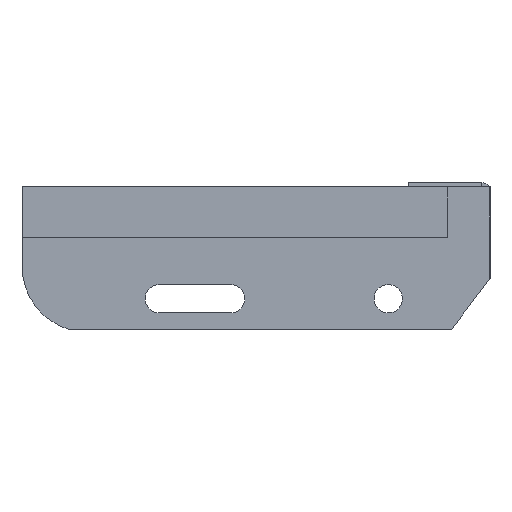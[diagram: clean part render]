
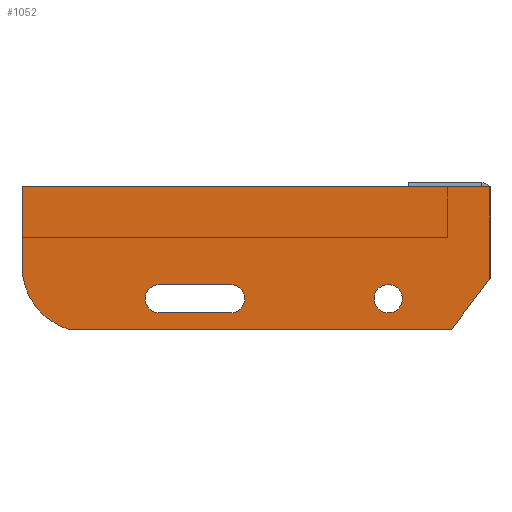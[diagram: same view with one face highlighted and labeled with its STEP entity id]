
A CAD part, left-side view. The second image highlights one B-rep face of the part: STEP entity #1052.
In plain terms, the highlighted planar face has unit normal (-1, 0, 0) as drawn and (0, 0, 1) by its records, which use the part's own axes.
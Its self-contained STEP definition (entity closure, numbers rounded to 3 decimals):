
#3 = CARTESIAN_POINT ( 'NONE',  ( -197.5, -39., 3. ) ) ;
#13 = VECTOR ( 'NONE', #1181, 1000. ) ;
#69 = ORIENTED_EDGE ( 'NONE', *, *, #941, .F. ) ;
#98 = CARTESIAN_POINT ( 'NONE',  ( -57., -55., 3. ) ) ;
#105 = CARTESIAN_POINT ( 'NONE',  ( -230., 0., 3. ) ) ;
#117 = DIRECTION ( 'NONE',  ( 0., 0., 1. ) ) ;
#166 = EDGE_CURVE ( 'NONE', #1852, #1625, #225, .T. ) ;
#168 = VERTEX_POINT ( 'NONE', #1463 ) ;
#178 = CARTESIAN_POINT ( 'NONE',  ( -162.5, -55., 3. ) ) ;
#212 = CARTESIAN_POINT ( 'NONE',  ( -197.5, -39., 3. ) ) ;
#225 = LINE ( 'NONE', #1173, #340 ) ;
#239 = AXIS2_PLACEMENT_3D ( 'NONE', #212, #1917, #523 ) ;
#244 = ORIENTED_EDGE ( 'NONE', *, *, #1505, .T. ) ;
#245 = FACE_OUTER_BOUND ( 'NONE', #291, .T. ) ;
#247 = CARTESIAN_POINT ( 'NONE',  ( -162.5, -62., 3. ) ) ;
#291 = EDGE_LOOP ( 'NONE', ( #244, #736, #1103, #591, #886, #630 ) ) ;
#298 = DIRECTION ( 'NONE',  ( 0., 0., 1. ) ) ;
#303 = CARTESIAN_POINT ( 'NONE',  ( -162.5, -48., 3. ) ) ;
#310 = CARTESIAN_POINT ( 'NONE',  ( -127.5, -62., 3. ) ) ;
#318 = CARTESIAN_POINT ( 'NONE',  ( -127.5, -48., 3. ) ) ;
#324 = EDGE_CURVE ( 'NONE', #431, #1074, #1209, .T. ) ;
#340 = VECTOR ( 'NONE', #1753, 1000. ) ;
#389 = VERTEX_POINT ( 'NONE', #2003 ) ;
#425 = EDGE_CURVE ( 'NONE', #1646, #527, #890, .T. ) ;
#428 = ORIENTED_EDGE ( 'NONE', *, *, #425, .F. ) ;
#431 = VERTEX_POINT ( 'NONE', #247 ) ;
#455 = VERTEX_POINT ( 'NONE', #98 ) ;
#471 = DIRECTION ( 'NONE',  ( 1., 0., 0. ) ) ;
#498 = DIRECTION ( 'NONE',  ( 1., 0., 0. ) ) ;
#523 = DIRECTION ( 'NONE',  ( 1., 0., 0. ) ) ;
#527 = VERTEX_POINT ( 'NONE', #303 ) ;
#551 = LINE ( 'NONE', #1007, #1613 ) ;
#558 = CARTESIAN_POINT ( 'NONE',  ( -162.5, -48., 3. ) ) ;
#577 = LINE ( 'NONE', #105, #1845 ) ;
#579 = DIRECTION ( 'NONE',  ( 1., 0., 0. ) ) ;
#585 = DIRECTION ( 'NONE',  ( 0., -1., 0. ) ) ;
#590 = CARTESIAN_POINT ( 'NONE',  ( 0., 0., 3. ) ) ;
#591 = ORIENTED_EDGE ( 'NONE', *, *, #778, .T. ) ;
#605 = DIRECTION ( 'NONE',  ( 1., 0., 0. ) ) ;
#630 = ORIENTED_EDGE ( 'NONE', *, *, #166, .T. ) ;
#641 = EDGE_CURVE ( 'NONE', #389, #1852, #962, .T. ) ;
#679 = DIRECTION ( 'NONE',  ( 1., 0., 0. ) ) ;
#705 = ORIENTED_EDGE ( 'NONE', *, *, #324, .F. ) ;
#715 = FACE_BOUND ( 'NONE', #834, .T. ) ;
#736 = ORIENTED_EDGE ( 'NONE', *, *, #1769, .T. ) ;
#760 = AXIS2_PLACEMENT_3D ( 'NONE', #853, #117, #1033 ) ;
#761 = CARTESIAN_POINT ( 'NONE',  ( -162.5, -55., 3. ) ) ;
#778 = EDGE_CURVE ( 'NONE', #1220, #389, #1940, .T. ) ;
#782 = ORIENTED_EDGE ( 'NONE', *, *, #1850, .F. ) ;
#787 = VECTOR ( 'NONE', #579, 1000. ) ;
#834 = EDGE_LOOP ( 'NONE', ( #1229, #69 ) ) ;
#853 = CARTESIAN_POINT ( 'NONE',  ( -50., -55., 3. ) ) ;
#864 = EDGE_CURVE ( 'NONE', #1394, #1220, #577, .T. ) ;
#886 = ORIENTED_EDGE ( 'NONE', *, *, #641, .T. ) ;
#887 = FACE_BOUND ( 'NONE', #1306, .T. ) ;
#890 = LINE ( 'NONE', #558, #13 ) ;
#904 = EDGE_CURVE ( 'NONE', #455, #1691, #1281, .T. ) ;
#941 = EDGE_CURVE ( 'NONE', #1691, #455, #2007, .T. ) ;
#962 = LINE ( 'NONE', #1586, #1475 ) ;
#1007 = CARTESIAN_POINT ( 'NONE',  ( 0., 0., 3. ) ) ;
#1025 = AXIS2_PLACEMENT_3D ( 'NONE', #1560, #298, #1714 ) ;
#1033 = DIRECTION ( 'NONE',  ( 1., 0., 0. ) ) ;
#1052 = ADVANCED_FACE ( 'NONE', ( #245, #715, #887 ), #1515, .T. ) ;
#1074 = VERTEX_POINT ( 'NONE', #310 ) ;
#1079 = CARTESIAN_POINT ( 'NONE',  ( -230., -39., 3. ) ) ;
#1086 = CARTESIAN_POINT ( 'NONE',  ( -169.5, -55., 3. ) ) ;
#1087 = AXIS2_PLACEMENT_3D ( 'NONE', #761, #1590, #679 ) ;
#1103 = ORIENTED_EDGE ( 'NONE', *, *, #864, .T. ) ;
#1173 = CARTESIAN_POINT ( 'NONE',  ( 0., -45., 3. ) ) ;
#1181 = DIRECTION ( 'NONE',  ( -1., 0., 0. ) ) ;
#1209 = LINE ( 'NONE', #1353, #787 ) ;
#1211 = DIRECTION ( 'NONE',  ( -1., 0., 0. ) ) ;
#1220 = VERTEX_POINT ( 'NONE', #1079 ) ;
#1229 = ORIENTED_EDGE ( 'NONE', *, *, #904, .F. ) ;
#1281 = CIRCLE ( 'NONE', #760, 7. ) ;
#1282 = CIRCLE ( 'NONE', #1025, 7. ) ;
#1306 = EDGE_LOOP ( 'NONE', ( #705, #1441, #782, #428, #1338 ) ) ;
#1338 = ORIENTED_EDGE ( 'NONE', *, *, #1745, .F. ) ;
#1353 = CARTESIAN_POINT ( 'NONE',  ( -162.5, -62., 3. ) ) ;
#1394 = VERTEX_POINT ( 'NONE', #1593 ) ;
#1406 = DIRECTION ( 'NONE',  ( 0., 0., 1. ) ) ;
#1412 = AXIS2_PLACEMENT_3D ( 'NONE', #1647, #1969, #1818 ) ;
#1416 = LINE ( 'NONE', #590, #1912 ) ;
#1441 = ORIENTED_EDGE ( 'NONE', *, *, #1784, .F. ) ;
#1457 = DIRECTION ( 'NONE',  ( 0., 0., 1. ) ) ;
#1463 = CARTESIAN_POINT ( 'NONE',  ( 0., 0., 3. ) ) ;
#1475 = VECTOR ( 'NONE', #605, 1000. ) ;
#1480 = CIRCLE ( 'NONE', #1087, 7. ) ;
#1505 = EDGE_CURVE ( 'NONE', #1625, #168, #551, .T. ) ;
#1515 = PLANE ( 'NONE',  #1909 ) ;
#1560 = CARTESIAN_POINT ( 'NONE',  ( -127.5, -55., 3. ) ) ;
#1586 = CARTESIAN_POINT ( 'NONE',  ( -18.839, -70., 3. ) ) ;
#1590 = DIRECTION ( 'NONE',  ( 0., 0., 1. ) ) ;
#1593 = CARTESIAN_POINT ( 'NONE',  ( -230., 0., 3. ) ) ;
#1613 = VECTOR ( 'NONE', #1804, 1000. ) ;
#1625 = VERTEX_POINT ( 'NONE', #2017 ) ;
#1646 = VERTEX_POINT ( 'NONE', #318 ) ;
#1647 = CARTESIAN_POINT ( 'NONE',  ( -50., -55., 3. ) ) ;
#1680 = AXIS2_PLACEMENT_3D ( 'NONE', #178, #1457, #498 ) ;
#1691 = VERTEX_POINT ( 'NONE', #2022 ) ;
#1714 = DIRECTION ( 'NONE',  ( 1., 0., 0. ) ) ;
#1738 = VERTEX_POINT ( 'NONE', #1086 ) ;
#1745 = EDGE_CURVE ( 'NONE', #1074, #1646, #1282, .T. ) ;
#1753 = DIRECTION ( 'NONE',  ( 0.602, 0.799, 0. ) ) ;
#1769 = EDGE_CURVE ( 'NONE', #168, #1394, #1416, .T. ) ;
#1778 = CARTESIAN_POINT ( 'NONE',  ( -18.839, -70., 3. ) ) ;
#1784 = EDGE_CURVE ( 'NONE', #1738, #431, #1480, .T. ) ;
#1804 = DIRECTION ( 'NONE',  ( 0., 1., 0. ) ) ;
#1816 = CIRCLE ( 'NONE', #1680, 7. ) ;
#1818 = DIRECTION ( 'NONE',  ( 1., 0., 0. ) ) ;
#1845 = VECTOR ( 'NONE', #585, 1000. ) ;
#1850 = EDGE_CURVE ( 'NONE', #527, #1738, #1816, .T. ) ;
#1852 = VERTEX_POINT ( 'NONE', #1778 ) ;
#1909 = AXIS2_PLACEMENT_3D ( 'NONE', #3, #1406, #471 ) ;
#1912 = VECTOR ( 'NONE', #1211, 1000. ) ;
#1917 = DIRECTION ( 'NONE',  ( 0., 0., 1. ) ) ;
#1940 = CIRCLE ( 'NONE', #239, 32.5 ) ;
#1969 = DIRECTION ( 'NONE',  ( 0., 0., 1. ) ) ;
#2003 = CARTESIAN_POINT ( 'NONE',  ( -207.26, -70., 3. ) ) ;
#2007 = CIRCLE ( 'NONE', #1412, 7. ) ;
#2017 = CARTESIAN_POINT ( 'NONE',  ( 0., -45., 3. ) ) ;
#2022 = CARTESIAN_POINT ( 'NONE',  ( -43., -55., 3. ) ) ;
